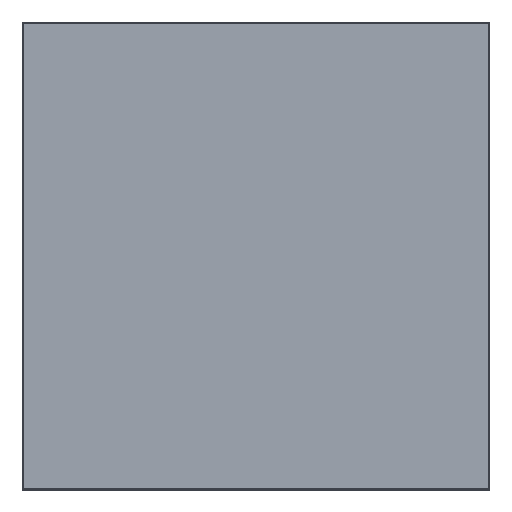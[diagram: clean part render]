
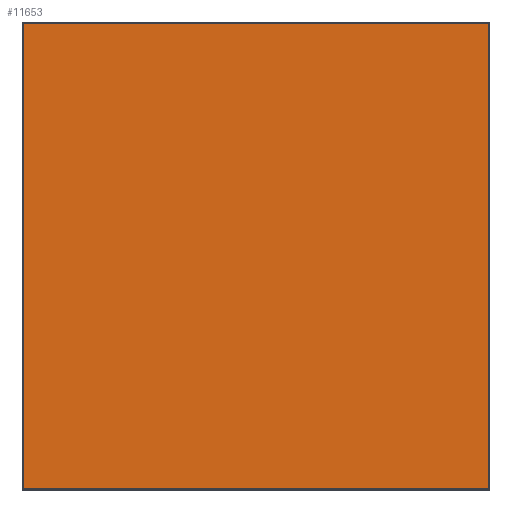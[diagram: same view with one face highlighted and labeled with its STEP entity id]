
A CAD part, top view. The second image highlights one B-rep face of the part: STEP entity #11653.
In plain terms, the highlighted planar face has unit normal (0, 0, 1).
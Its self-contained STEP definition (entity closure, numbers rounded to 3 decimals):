
#11614=CARTESIAN_POINT('',(0.,0.,20.));
#11615=DIRECTION('',(1.,0.,0.));
#11616=DIRECTION('',(0.,0.,1.));
#11617=AXIS2_PLACEMENT_3D('',#11614,#11616,#11615);
#11618=PLANE('',#11617);
#11619=CARTESIAN_POINT('',(298.5,-298.5,20.));
#11620=VERTEX_POINT('',#11619);
#11621=CARTESIAN_POINT('',(298.5,298.5,20.));
#11622=VERTEX_POINT('',#11621);
#11623=CARTESIAN_POINT('',(298.5,-298.5,20.));
#11624=DIRECTION('',(0.,1.,0.));
#11625=VECTOR('',#11624,597.);
#11626=LINE('',#11623,#11625);
#11627=EDGE_CURVE('',#11620,#11622,#11626,.T.);
#11628=ORIENTED_EDGE('E117',*,*,#11627,.T.);
#11629=CARTESIAN_POINT('',(-298.5,298.5,20.));
#11630=VERTEX_POINT('',#11629);
#11631=CARTESIAN_POINT('',(298.5,298.5,20.));
#11632=DIRECTION('',(-1.,0.,0.));
#11633=VECTOR('',#11632,597.);
#11634=LINE('',#11631,#11633);
#11635=EDGE_CURVE('',#11622,#11630,#11634,.T.);
#11636=ORIENTED_EDGE('E118',*,*,#11635,.T.);
#11637=CARTESIAN_POINT('',(-298.5,-298.5,20.));
#11638=VERTEX_POINT('',#11637);
#11639=CARTESIAN_POINT('',(-298.5,298.5,20.));
#11640=DIRECTION('',(0.,-1.,0.));
#11641=VECTOR('',#11640,597.);
#11642=LINE('',#11639,#11641);
#11643=EDGE_CURVE('',#11630,#11638,#11642,.T.);
#11644=ORIENTED_EDGE('E120',*,*,#11643,.T.);
#11645=CARTESIAN_POINT('',(-298.5,-298.5,20.));
#11646=DIRECTION('',(1.,0.,0.));
#11647=VECTOR('',#11646,597.);
#11648=LINE('',#11645,#11647);
#11649=EDGE_CURVE('',#11638,#11620,#11648,.T.);
#11650=ORIENTED_EDGE('E116',*,*,#11649,.T.);
#11651=EDGE_LOOP('',(#11628,#11636,#11644,#11650));
#11652=FACE_OUTER_BOUND('',#11651,.T.);
#11653=ADVANCED_FACE('F2',(#11652),#11618,.T.);
